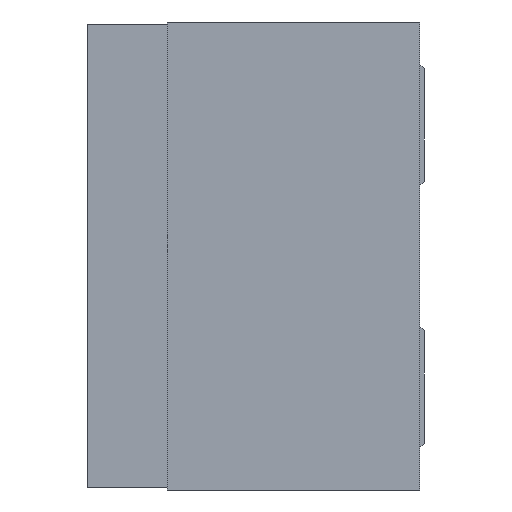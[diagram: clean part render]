
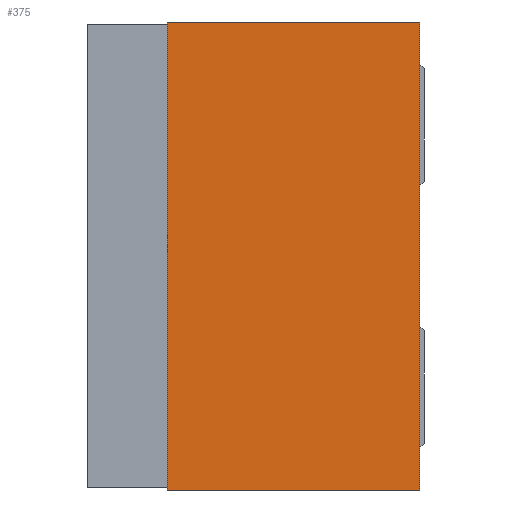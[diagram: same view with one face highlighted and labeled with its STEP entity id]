
A CAD part, left-side view. The second image highlights one B-rep face of the part: STEP entity #375.
In plain terms, the highlighted planar face has unit normal (-1, 0, 0).
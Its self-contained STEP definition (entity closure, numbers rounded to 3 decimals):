
#375 = ADVANCED_FACE( '', ( #1179 ), #1180, .F. );
#1179 = FACE_OUTER_BOUND( '', #2572, .T. );
#1180 = PLANE( '', #2573 );
#2572 = EDGE_LOOP( '', ( #4785, #4786, #4787, #4788 ) );
#2573 = AXIS2_PLACEMENT_3D( '', #4789, #4790, #4791 );
#4785 = ORIENTED_EDGE( '', *, *, #9095, .F. );
#4786 = ORIENTED_EDGE( '', *, *, #9096, .F. );
#4787 = ORIENTED_EDGE( '', *, *, #9097, .F. );
#4788 = ORIENTED_EDGE( '', *, *, #9091, .F. );
#4789 = CARTESIAN_POINT( '', ( -15., 0., 0. ) );
#4790 = DIRECTION( '', ( 1., 0., 0. ) );
#4791 = DIRECTION( '', ( 0., 0., -1. ) );
#9091 = EDGE_CURVE( '', #10987, #10988, #10989, .T. );
#9095 = EDGE_CURVE( '', #10995, #10987, #10996, .T. );
#9096 = EDGE_CURVE( '', #10997, #10995, #10998, .T. );
#9097 = EDGE_CURVE( '', #10988, #10997, #10999, .T. );
#10987 = VERTEX_POINT( '', #13837 );
#10988 = VERTEX_POINT( '', #13838 );
#10989 = LINE( '', #13839, #13840 );
#10995 = VERTEX_POINT( '', #13849 );
#10996 = LINE( '', #13850, #13851 );
#10997 = VERTEX_POINT( '', #13852 );
#10998 = LINE( '', #13853, #13854 );
#10999 = LINE( '', #13855, #13856 );
#13837 = CARTESIAN_POINT( '', ( -15., 23., -50. ) );
#13838 = CARTESIAN_POINT( '', ( -15., 23., 50. ) );
#13839 = CARTESIAN_POINT( '', ( -15., 23., -50. ) );
#13840 = VECTOR( '', #17119, 1. );
#13849 = CARTESIAN_POINT( '', ( -15., -31., -50. ) );
#13850 = CARTESIAN_POINT( '', ( -15., -31., -50. ) );
#13851 = VECTOR( '', #17123, 1. );
#13852 = CARTESIAN_POINT( '', ( -15., -31., 50. ) );
#13853 = CARTESIAN_POINT( '', ( -15., -31., 50. ) );
#13854 = VECTOR( '', #17124, 1. );
#13855 = CARTESIAN_POINT( '', ( -15., 23., 50. ) );
#13856 = VECTOR( '', #17125, 1. );
#17119 = DIRECTION( '', ( 0., 0., 1. ) );
#17123 = DIRECTION( '', ( 0., 1., 0. ) );
#17124 = DIRECTION( '', ( 0., 0., -1. ) );
#17125 = DIRECTION( '', ( 0., -1., 0. ) );
